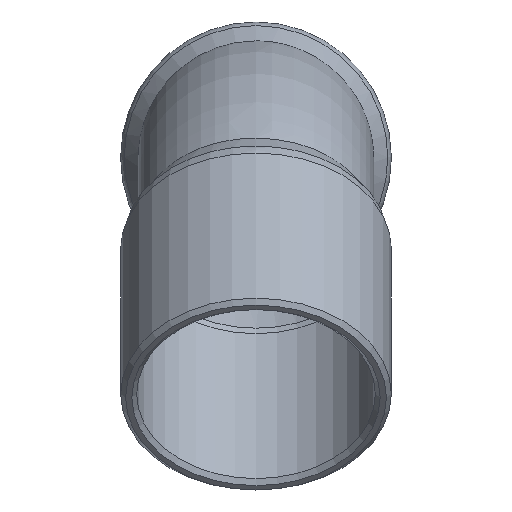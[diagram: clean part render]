
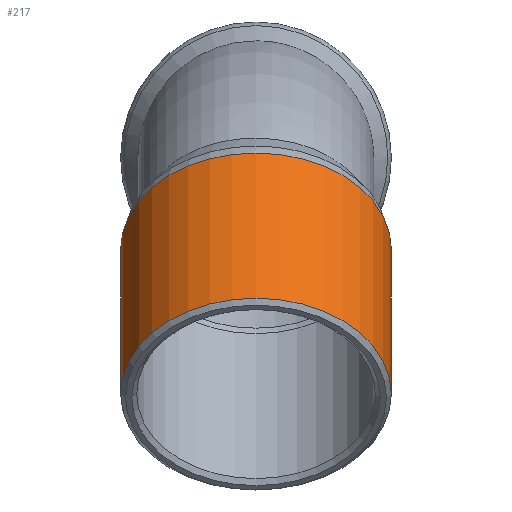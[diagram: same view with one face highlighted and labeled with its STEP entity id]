
A CAD part, top view. The second image highlights one B-rep face of the part: STEP entity #217.
In plain terms, the highlighted free-form (B-spline) face has degree [1, 2] with [2, 9] control points.
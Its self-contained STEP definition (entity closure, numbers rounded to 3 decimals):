
#165=CARTESIAN_POINT('',(0.,6.274,18.436));
#166=VERTEX_POINT('',#165);
#167=CARTESIAN_POINT('',(0.0,2.404,14.566));
#168=DIRECTION('',(0.0,-0.707,0.707));
#169=DIRECTION('',(0.0,-0.707,-0.707));
#170=AXIS2_PLACEMENT_3D('',#167,#168,#169);
#171=CIRCLE('',#170,5.472);
#172=EDGE_CURVE('',#166,#166,#171,.T.);
#177=CARTESIAN_POINT('',(0.,8.283,0.949));
#178=CARTESIAN_POINT('',(0.,-5.335,14.566));
#179=CARTESIAN_POINT('',(-5.472,8.283,0.949));
#180=CARTESIAN_POINT('',(-5.472,-5.335,14.566));
#181=CARTESIAN_POINT('',(-5.472,12.152,4.818));
#182=CARTESIAN_POINT('',(-5.472,-1.465,18.436));
#183=CARTESIAN_POINT('',(-5.472,16.022,8.688));
#184=CARTESIAN_POINT('',(-5.472,2.404,22.306));
#185=CARTESIAN_POINT('',(0.,16.022,8.688));
#186=CARTESIAN_POINT('',(0.,2.404,22.306));
#187=CARTESIAN_POINT('',(5.472,16.022,8.688));
#188=CARTESIAN_POINT('',(5.472,2.404,22.306));
#189=CARTESIAN_POINT('',(5.472,12.152,4.818));
#190=CARTESIAN_POINT('',(5.472,-1.465,18.436));
#191=CARTESIAN_POINT('',(5.472,8.283,0.949));
#192=CARTESIAN_POINT('',(5.472,-5.335,14.566));
#193=CARTESIAN_POINT('',(0.,8.283,0.949));
#194=CARTESIAN_POINT('',(0.,-5.335,14.566));
#202=(BOUNDED_SURFACE()B_SPLINE_SURFACE(1,2,((#177,#179,#181,#183,#185,#187,#189,#191,#193),(#178,#180,#182,#184,#186,#188,#190,#192,#194)),.UNSPECIFIED.,.F.,.T.,.U.)B_SPLINE_SURFACE_WITH_KNOTS((2,2),(3,2,2,2,3),(-1.778,1.741),(0.0,8.596,17.192,25.789,34.385),.UNSPECIFIED.)GEOMETRIC_REPRESENTATION_ITEM()RATIONAL_B_SPLINE_SURFACE(((1.0,0.707,1.0,0.707,1.0,0.707,1.0,0.707,1.0),(1.0,0.707,1.0,0.707,1.0,0.707,1.0,0.707,1.0)))REPRESENTATION_ITEM('')SURFACE());
#203=CARTESIAN_POINT('',(0.0,12.152,12.558));
#204=VERTEX_POINT('',#203);
#205=CARTESIAN_POINT('',(0.0,8.283,8.688));
#206=DIRECTION('',(0.0,0.707,-0.707));
#207=DIRECTION('',(0.0,0.707,0.707));
#208=AXIS2_PLACEMENT_3D('',#205,#206,#207);
#209=CIRCLE('',#208,5.472);
#210=EDGE_CURVE('',#204,#204,#209,.T.);
#211=ORIENTED_EDGE('',*,*,#210,.F.);
#212=EDGE_LOOP('',(#211));
#213=FACE_OUTER_BOUND('',#212,.T.);
#214=ORIENTED_EDGE('',*,*,#172,.F.);
#215=EDGE_LOOP('',(#214));
#216=FACE_BOUND('',#215,.T.);
#217=ADVANCED_FACE('',(#213,#216),#202,.T.);
